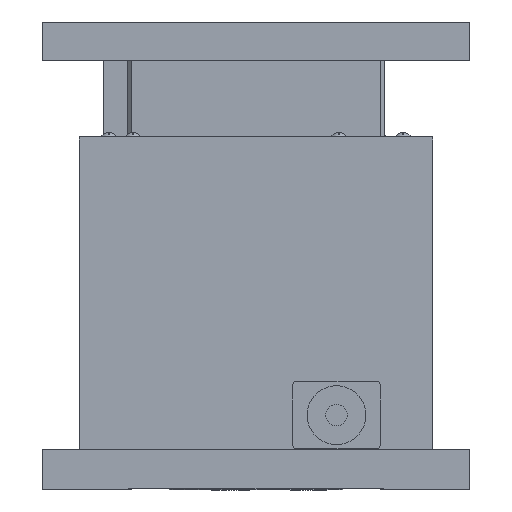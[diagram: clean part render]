
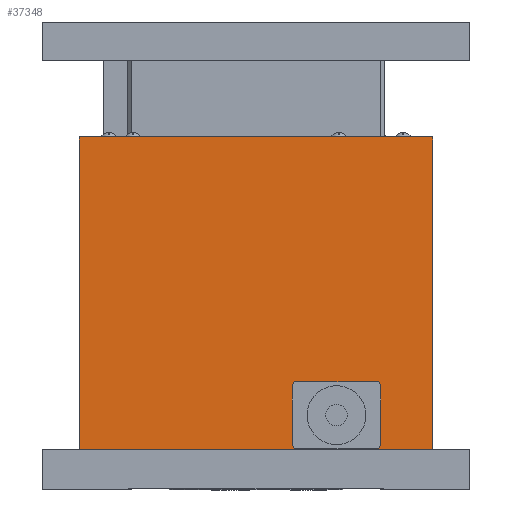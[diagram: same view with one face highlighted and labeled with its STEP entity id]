
A CAD part, left-side view. The second image highlights one B-rep face of the part: STEP entity #37348.
In plain terms, the highlighted planar face has unit normal (-1, 0, 0).
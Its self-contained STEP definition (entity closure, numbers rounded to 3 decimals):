
#35 = VERTEX_POINT ( 'NONE', #23954 ) ;
#305 = VECTOR ( 'NONE', #26685, 1000. ) ;
#1782 = CIRCLE ( 'NONE', #54008, 20. ) ;
#3693 = EDGE_CURVE ( 'NONE', #43475, #41506, #19510, .T. ) ;
#4569 = CARTESIAN_POINT ( 'NONE',  ( -66., -14.488, 40.5 ) ) ;
#6319 = VECTOR ( 'NONE', #59499, 1000. ) ;
#8418 = CARTESIAN_POINT ( 'NONE',  ( -66., -66., 132. ) ) ;
#8874 = VERTEX_POINT ( 'NONE', #4569 ) ;
#10140 = VERTEX_POINT ( 'NONE', #35435 ) ;
#11339 = DIRECTION ( 'NONE',  ( 0., 0., -1. ) ) ;
#11724 = CARTESIAN_POINT ( 'NONE',  ( -66., -51., 15. ) ) ;
#12379 = LINE ( 'NONE', #45749, #6319 ) ;
#15210 = ORIENTED_EDGE ( 'NONE', *, *, #43098, .F. ) ;
#15825 = VECTOR ( 'NONE', #42202, 1000. ) ;
#16103 = CARTESIAN_POINT ( 'NONE',  ( -66., -45.712, 40.5 ) ) ;
#16380 = EDGE_CURVE ( 'NONE', #48066, #45196, #33521, .T. ) ;
#17455 = ORIENTED_EDGE ( 'NONE', *, *, #21681, .F. ) ;
#18390 = LINE ( 'NONE', #34174, #27434 ) ;
#18846 = CARTESIAN_POINT ( 'NONE',  ( -66., -14.488, 15.5 ) ) ;
#19365 = EDGE_CURVE ( 'NONE', #8874, #43475, #57335, .T. ) ;
#19510 = LINE ( 'NONE', #19764, #62421 ) ;
#19582 = EDGE_LOOP ( 'NONE', ( #15210, #39550, #39426, #41700 ) ) ;
#19764 = CARTESIAN_POINT ( 'NONE',  ( -66., -13.6, 39.303 ) ) ;
#19985 = CARTESIAN_POINT ( 'NONE',  ( -66., -30.1, 28. ) ) ;
#21235 = DIRECTION ( 'NONE',  ( -1., 0., 0. ) ) ;
#21681 = EDGE_CURVE ( 'NONE', #51584, #24215, #28525, .T. ) ;
#22983 = PLANE ( 'NONE',  #44838 ) ;
#23028 = CARTESIAN_POINT ( 'NONE',  ( -66., -66., 132. ) ) ;
#23200 = DIRECTION ( 'NONE',  ( 1., 0., 0. ) ) ;
#23954 = CARTESIAN_POINT ( 'NONE',  ( -66., -66., 15. ) ) ;
#24215 = VERTEX_POINT ( 'NONE', #47568 ) ;
#24689 = ORIENTED_EDGE ( 'NONE', *, *, #19365, .F. ) ;
#25085 = DIRECTION ( 'NONE',  ( -1., 0., 0. ) ) ;
#25103 = LINE ( 'NONE', #11724, #53724 ) ;
#25369 = EDGE_CURVE ( 'NONE', #10140, #40133, #40664, .T. ) ;
#25742 = CARTESIAN_POINT ( 'NONE',  ( -66., 66., 15. ) ) ;
#25872 = CARTESIAN_POINT ( 'NONE',  ( -66., 66., 132. ) ) ;
#26169 = DIRECTION ( 'NONE',  ( 0., 1., 0. ) ) ;
#26685 = DIRECTION ( 'NONE',  ( 0., 0., -1. ) ) ;
#27434 = VECTOR ( 'NONE', #49283, 1000. ) ;
#27608 = ORIENTED_EDGE ( 'NONE', *, *, #3693, .F. ) ;
#27666 = LINE ( 'NONE', #16103, #62317 ) ;
#28525 = CIRCLE ( 'NONE', #52459, 20. ) ;
#28665 = EDGE_CURVE ( 'NONE', #40757, #35, #30453, .T. ) ;
#29032 = DIRECTION ( 'NONE',  ( -1., 0., 0. ) ) ;
#29062 = ORIENTED_EDGE ( 'NONE', *, *, #39750, .F. ) ;
#29911 = CARTESIAN_POINT ( 'NONE',  ( -66., -30.1, 28. ) ) ;
#30453 = LINE ( 'NONE', #8418, #305 ) ;
#30579 = EDGE_CURVE ( 'NONE', #40133, #37651, #33263, .T. ) ;
#30689 = FACE_BOUND ( 'NONE', #35392, .T. ) ;
#33225 = ORIENTED_EDGE ( 'NONE', *, *, #30579, .F. ) ;
#33263 = CIRCLE ( 'NONE', #34744, 20. ) ;
#33521 = LINE ( 'NONE', #25872, #58391 ) ;
#33563 = CARTESIAN_POINT ( 'NONE',  ( -66., -13.6, 39.303 ) ) ;
#34174 = CARTESIAN_POINT ( 'NONE',  ( -66., -46.6, 16.697 ) ) ;
#34270 = EDGE_CURVE ( 'NONE', #45196, #35, #25103, .T. ) ;
#34490 = DIRECTION ( 'NONE',  ( 0., 0., -1. ) ) ;
#34543 = DIRECTION ( 'NONE',  ( 0., 0., -1. ) ) ;
#34744 = AXIS2_PLACEMENT_3D ( 'NONE', #49983, #59272, #11339 ) ;
#35392 = EDGE_LOOP ( 'NONE', ( #44021, #42569, #27608, #24689, #29062, #17455, #53892, #33225 ) ) ;
#35435 = CARTESIAN_POINT ( 'NONE',  ( -66., -14.488, 15.5 ) ) ;
#37117 = DIRECTION ( 'NONE',  ( 0., 0., -1. ) ) ;
#37348 = ADVANCED_FACE ( 'NONE', ( #38252, #30689 ), #22983, .F. ) ;
#37651 = VERTEX_POINT ( 'NONE', #45424 ) ;
#38252 = FACE_OUTER_BOUND ( 'NONE', #19582, .T. ) ;
#39426 = ORIENTED_EDGE ( 'NONE', *, *, #34270, .T. ) ;
#39550 = ORIENTED_EDGE ( 'NONE', *, *, #16380, .T. ) ;
#39750 = EDGE_CURVE ( 'NONE', #24215, #8874, #27666, .T. ) ;
#40133 = VERTEX_POINT ( 'NONE', #41508 ) ;
#40271 = DIRECTION ( 'NONE',  ( 0., -1., 0. ) ) ;
#40664 = LINE ( 'NONE', #18846, #15825 ) ;
#40757 = VERTEX_POINT ( 'NONE', #23028 ) ;
#41506 = VERTEX_POINT ( 'NONE', #48571 ) ;
#41508 = CARTESIAN_POINT ( 'NONE',  ( -66., -45.712, 15.5 ) ) ;
#41700 = ORIENTED_EDGE ( 'NONE', *, *, #28665, .F. ) ;
#42108 = CARTESIAN_POINT ( 'NONE',  ( -66., 66., 132. ) ) ;
#42202 = DIRECTION ( 'NONE',  ( 0., -1., 0. ) ) ;
#42569 = ORIENTED_EDGE ( 'NONE', *, *, #51271, .F. ) ;
#42600 = EDGE_CURVE ( 'NONE', #37651, #51584, #18390, .T. ) ;
#43098 = EDGE_CURVE ( 'NONE', #48066, #40757, #12379, .T. ) ;
#43333 = DIRECTION ( 'NONE',  ( 0., 0., -1. ) ) ;
#43475 = VERTEX_POINT ( 'NONE', #33563 ) ;
#44021 = ORIENTED_EDGE ( 'NONE', *, *, #25369, .F. ) ;
#44838 = AXIS2_PLACEMENT_3D ( 'NONE', #56664, #23200, #37117 ) ;
#45196 = VERTEX_POINT ( 'NONE', #25742 ) ;
#45424 = CARTESIAN_POINT ( 'NONE',  ( -66., -46.6, 16.697 ) ) ;
#45749 = CARTESIAN_POINT ( 'NONE',  ( -66., -51., 132. ) ) ;
#46651 = CARTESIAN_POINT ( 'NONE',  ( -66., -46.6, 39.303 ) ) ;
#47568 = CARTESIAN_POINT ( 'NONE',  ( -66., -45.712, 40.5 ) ) ;
#48066 = VERTEX_POINT ( 'NONE', #42108 ) ;
#48571 = CARTESIAN_POINT ( 'NONE',  ( -66., -13.6, 16.697 ) ) ;
#49283 = DIRECTION ( 'NONE',  ( 0., 0., 1. ) ) ;
#49983 = CARTESIAN_POINT ( 'NONE',  ( -66., -30.1, 28. ) ) ;
#50062 = DIRECTION ( 'NONE',  ( 0., 0., -1. ) ) ;
#51271 = EDGE_CURVE ( 'NONE', #41506, #10140, #1782, .T. ) ;
#51521 = AXIS2_PLACEMENT_3D ( 'NONE', #59571, #21235, #50062 ) ;
#51584 = VERTEX_POINT ( 'NONE', #46651 ) ;
#52459 = AXIS2_PLACEMENT_3D ( 'NONE', #29911, #25085, #34543 ) ;
#53724 = VECTOR ( 'NONE', #40271, 1000. ) ;
#53892 = ORIENTED_EDGE ( 'NONE', *, *, #42600, .F. ) ;
#54008 = AXIS2_PLACEMENT_3D ( 'NONE', #19985, #29032, #34490 ) ;
#55152 = DIRECTION ( 'NONE',  ( 0., 0., -1. ) ) ;
#56664 = CARTESIAN_POINT ( 'NONE',  ( -66., -51., 132. ) ) ;
#57335 = CIRCLE ( 'NONE', #51521, 20. ) ;
#58391 = VECTOR ( 'NONE', #55152, 1000. ) ;
#59272 = DIRECTION ( 'NONE',  ( -1., 0., 0. ) ) ;
#59499 = DIRECTION ( 'NONE',  ( 0., -1., 0. ) ) ;
#59571 = CARTESIAN_POINT ( 'NONE',  ( -66., -30.1, 28. ) ) ;
#62317 = VECTOR ( 'NONE', #26169, 1000. ) ;
#62421 = VECTOR ( 'NONE', #43333, 1000. ) ;
